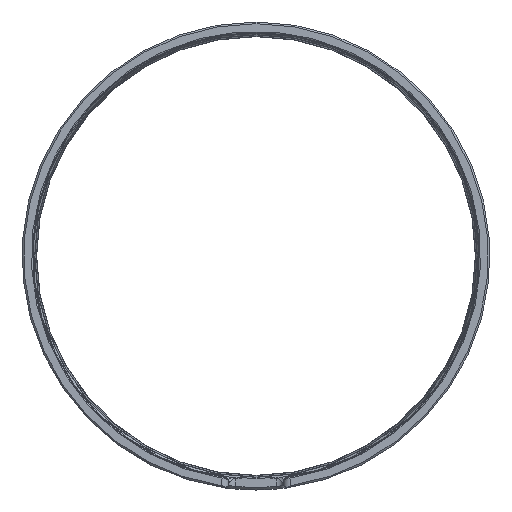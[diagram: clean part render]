
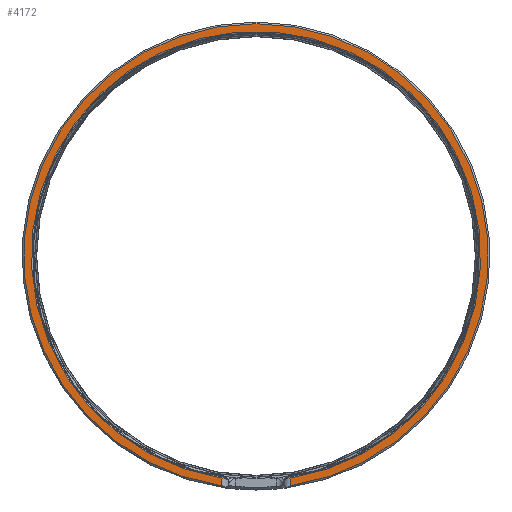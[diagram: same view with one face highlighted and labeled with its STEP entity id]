
A CAD part, left-side view. The second image highlights one B-rep face of the part: STEP entity #4172.
In plain terms, the highlighted planar face has unit normal (-1, 0, 0).
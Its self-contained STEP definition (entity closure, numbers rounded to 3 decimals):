
#199 = EDGE_CURVE ( 'NONE', #3308, #4203, #5800, .T. ) ;
#247 = VERTEX_POINT ( 'NONE', #4721 ) ;
#266 = LINE ( 'NONE', #2146, #4898 ) ;
#340 = CARTESIAN_POINT ( 'NONE',  ( -500., 0., 0. ) ) ;
#359 = ORIENTED_EDGE ( 'NONE', *, *, #591, .T. ) ;
#591 = EDGE_CURVE ( 'NONE', #2386, #5421, #3260, .T. ) ;
#695 = CARTESIAN_POINT ( 'NONE',  ( -500., 0., 0. ) ) ;
#1135 = ORIENTED_EDGE ( 'NONE', *, *, #2298, .F. ) ;
#1164 = CARTESIAN_POINT ( 'NONE',  ( -500., 0., 0. ) ) ;
#1457 = AXIS2_PLACEMENT_3D ( 'NONE', #695, #3004, #3546 ) ;
#1628 = DIRECTION ( 'NONE',  ( 0., 0., -1. ) ) ;
#1689 = DIRECTION ( 'NONE',  ( -1., 0., 0. ) ) ;
#1793 = CARTESIAN_POINT ( 'NONE',  ( -500., -10.2, -68.09 ) ) ;
#2146 = CARTESIAN_POINT ( 'NONE',  ( -500., -10.2, -69.35 ) ) ;
#2161 = CIRCLE ( 'NONE', #5893, 66.575 ) ;
#2217 = DIRECTION ( 'NONE',  ( -1., 0., 0. ) ) ;
#2298 = EDGE_CURVE ( 'NONE', #2386, #247, #266, .T. ) ;
#2341 = AXIS2_PLACEMENT_3D ( 'NONE', #1164, #1689, #1628 ) ;
#2386 = VERTEX_POINT ( 'NONE', #1793 ) ;
#3004 = DIRECTION ( 'NONE',  ( -1., 0., 0. ) ) ;
#3020 = CARTESIAN_POINT ( 'NONE',  ( -500., 10.2, -65.789 ) ) ;
#3066 = DIRECTION ( 'NONE',  ( 0., 0., 1. ) ) ;
#3199 = DIRECTION ( 'NONE',  ( 0., 0., 1. ) ) ;
#3260 = CIRCLE ( 'NONE', #3349, 68.85 ) ;
#3308 = VERTEX_POINT ( 'NONE', #3955 ) ;
#3349 = AXIS2_PLACEMENT_3D ( 'NONE', #340, #2217, #3199 ) ;
#3535 = PLANE ( 'NONE',  #2341 ) ;
#3546 = DIRECTION ( 'NONE',  ( 0., 0., 1. ) ) ;
#3679 = ORIENTED_EDGE ( 'NONE', *, *, #199, .T. ) ;
#3955 = CARTESIAN_POINT ( 'NONE',  ( -500., 10.2, -68.09 ) ) ;
#3978 = DIRECTION ( 'NONE',  ( 0., 0., 1. ) ) ;
#4018 = CIRCLE ( 'NONE', #1457, 68.85 ) ;
#4172 = ADVANCED_FACE ( 'NONE', ( #5854 ), #3535, .T. ) ;
#4203 = VERTEX_POINT ( 'NONE', #3020 ) ;
#4572 = EDGE_CURVE ( 'NONE', #247, #4203, #2161, .T. ) ;
#4721 = CARTESIAN_POINT ( 'NONE',  ( -500., -10.2, -65.789 ) ) ;
#4819 = EDGE_CURVE ( 'NONE', #5421, #3308, #4018, .T. ) ;
#4898 = VECTOR ( 'NONE', #3066, 1000. ) ;
#4992 = ORIENTED_EDGE ( 'NONE', *, *, #4572, .F. ) ;
#5012 = DIRECTION ( 'NONE',  ( 0., 0., 1. ) ) ;
#5070 = DIRECTION ( 'NONE',  ( -1., 0., 0. ) ) ;
#5290 = CARTESIAN_POINT ( 'NONE',  ( -500., 0., 68.85 ) ) ;
#5398 = CARTESIAN_POINT ( 'NONE',  ( -500., 10.2, -69.35 ) ) ;
#5421 = VERTEX_POINT ( 'NONE', #5290 ) ;
#5536 = EDGE_LOOP ( 'NONE', ( #1135, #359, #5758, #3679, #4992 ) ) ;
#5758 = ORIENTED_EDGE ( 'NONE', *, *, #4819, .T. ) ;
#5800 = LINE ( 'NONE', #5398, #5816 ) ;
#5816 = VECTOR ( 'NONE', #3978, 1000. ) ;
#5854 = FACE_OUTER_BOUND ( 'NONE', #5536, .T. ) ;
#5893 = AXIS2_PLACEMENT_3D ( 'NONE', #6085, #5070, #5012 ) ;
#6085 = CARTESIAN_POINT ( 'NONE',  ( -500., 0., 0. ) ) ;
